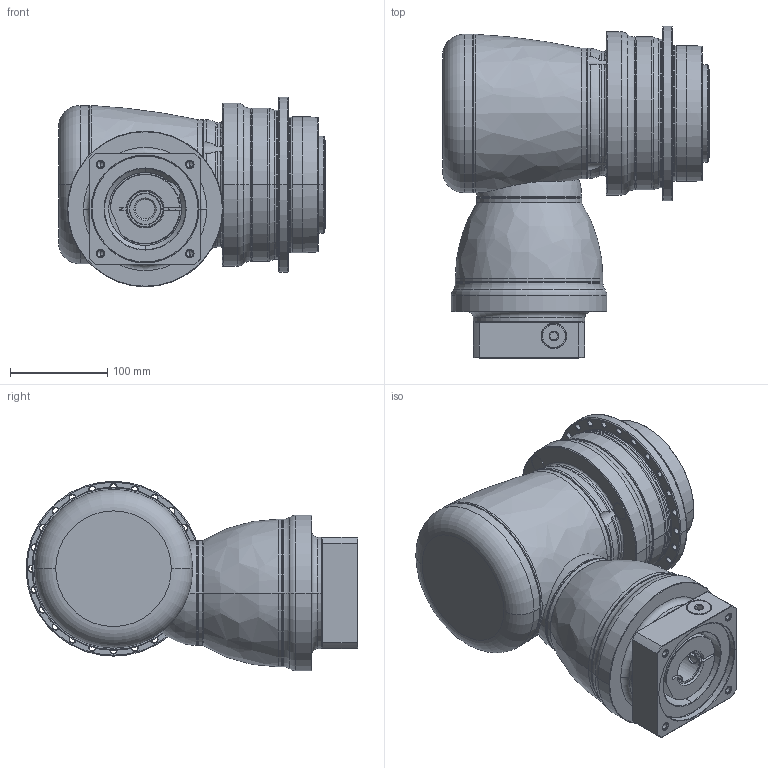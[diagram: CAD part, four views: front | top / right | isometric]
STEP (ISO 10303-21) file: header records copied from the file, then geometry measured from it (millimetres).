
FILE_DESCRIPTION((''),'2;1');
FILE_NAME('APK140_2ST_32-P0409710201_ASM','2018-05-25T',('D00080'),(''),'PRO/ENGINEER BY PARAMETRIC TECHNOLOGY CORPORATION, 2008170','PRO/ENGINEER BY PARAMETRIC TECHNOLOGY CORPORATION, 2008170','');
FILE_SCHEMA(('CONFIG_CONTROL_DESIGN'));
Length unit declared in the file: millimetre
Products named in the file (13): P1008500002; P1802510011; P0278501003; P0359501103; P1211500001; P1315500001; P1007501001; P1318501201; P0503700010; P0912552001; P0409710201; 21711418017; APK140_2ST_32-P0409710201_ASM
Assembly tree (12 placements, depth 2):
  APK140_2ST_32-P0409710201_ASM
    P1008500002
    P1802510011
    P0278501003
    P0359501103
    P1211500001
    P1315500001
    P1007501001
    P1318501201
    P0503700010
    P0912552001
    P0409710201
    21711418017
Bounding box: 274.5 x 341.5 x 195 mm (x, y, z)
Volume: 7303944.4 mm3; surface area: 670347.5 mm2
Topology: 13 solids, 38 shells, 851 faces, 1960 edges, 1195 vertices
Faces by surface type: cylinder 356, cone 229, plane 144, torus 101, bspline 19, sphere 2
Entity records: 29791 total; most frequent: CARTESIAN_POINT 9792, DIRECTION 4590, ORIENTED_EDGE 3730, AXIS2_PLACEMENT_3D 1968, EDGE_CURVE 1916, VERTEX_POINT 1195, CIRCLE 1101, EDGE_LOOP 1019
